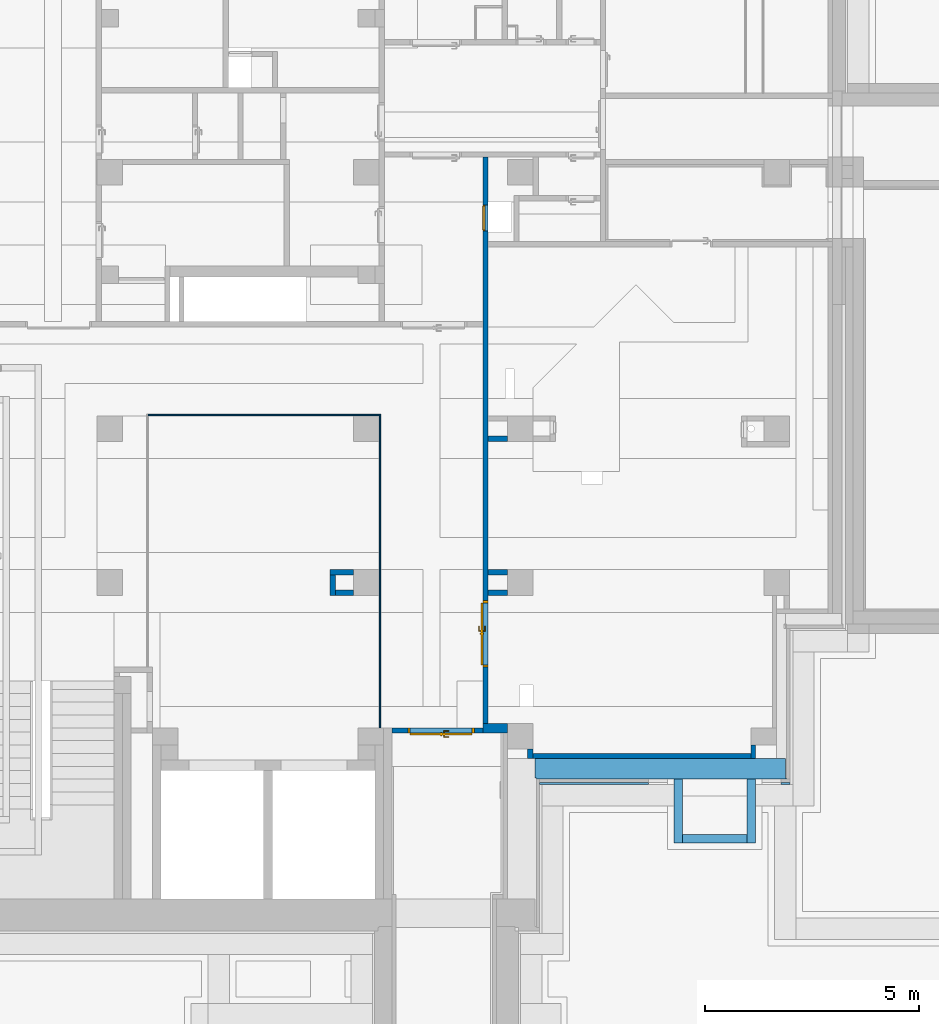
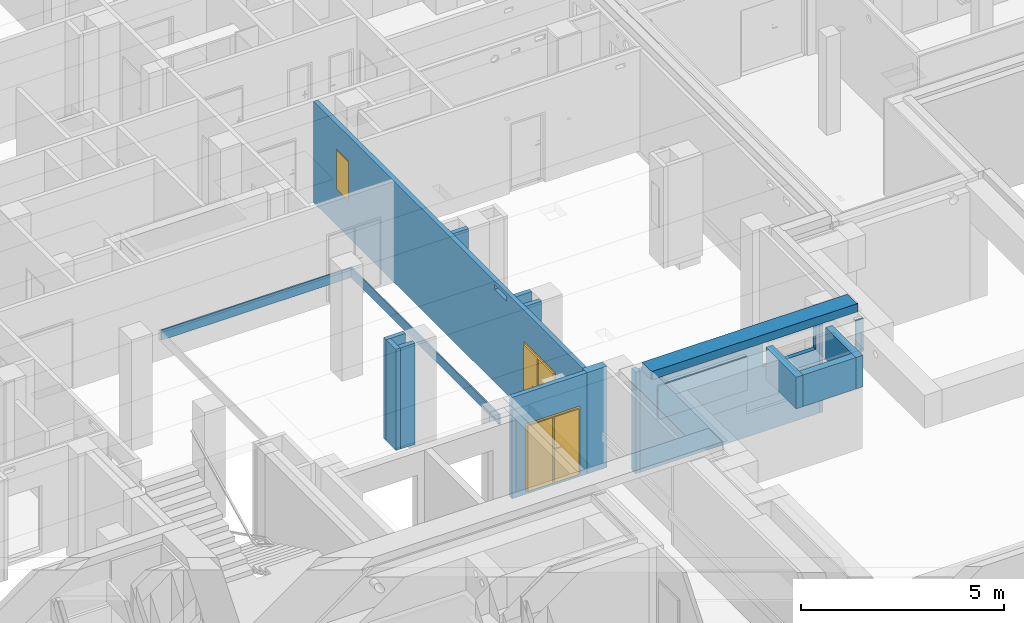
# One storey, part 19 of 84: 20 walls, 2 doors, 1 window, 5 openings.
"""IFC4 building model written with IfcOpenShell, lengths in metres."""

from ifc_helpers import new_model, entity, si_unit, converted_unit, derived_unit, frame, frame_2d, origin, origin_with_axes, place, context, subcontext, project, spatial, polyline, rectangle, outline, extrude, closed_shell, open_shell, faceted_brep, surface_model, source, transform, mapped, material, layer, layer_set, layer_usage, type_object, element, fill, save


model = new_model("IFC4")

# Units and contexts
model_context = context("Model", 3, precision=1e-05, world=origin())
body_context = subcontext(model_context, "Body", "Model", "MODEL_VIEW")
ifc_project = project(units=[si_unit("LENGTHUNIT", "METRE"), si_unit("AREAUNIT", "SQUARE_METRE"), si_unit("VOLUMEUNIT", "CUBIC_METRE"), si_unit("MASSUNIT", "GRAM", prefix="KILO"), converted_unit("PLANEANGLEUNIT", "DEGREE", entity("IfcPlaneAngleMeasure", 0.0174532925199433), si_unit("PLANEANGLEUNIT", "RADIAN"), dimensions=[0, 0, 0, 0, 0, 0, 0]), derived_unit("THERMALTRANSMITTANCEUNIT", [(si_unit("POWERUNIT", "WATT"), 1), (si_unit("THERMODYNAMICTEMPERATUREUNIT", "KELVIN"), -1), (si_unit("LENGTHUNIT", "METRE"), -2)]), derived_unit("VOLUMETRICFLOWRATEUNIT", [(si_unit("LENGTHUNIT", "METRE"), 3), (converted_unit("TIMEUNIT", "hour", entity("IfcTimeMeasure", 3600.0), si_unit("TIMEUNIT", "SECOND"), dimensions=[0, 0, 1, 0, 0, 0, 0]), -1), (si_unit("LENGTHUNIT", "METRE"), -1)])], contexts=[model_context])

# Site, building, storey
site_placement = place(None, origin())
site = spatial("IfcSite", under=ifc_project, at=site_placement, Name="3. ASŘ", CompositionType="ELEMENT")
building_placement = place(site_placement, origin())
building = spatial("IfcBuilding", under=site, at=building_placement, Name="Pavilon C", CompositionType="ELEMENT")
storey_placement = place(building_placement, frame((0.0, 0.0, -3.3)))
storey = spatial("IfcBuildingStorey", under=building, at=storey_placement, Name="Půdorys 1.PP", CompositionType="ELEMENT", Elevation=-3.3)

# Walls
ifc_material_1 = material(Name="ZDIVO Z CDm")
ifc_layer_1 = layer(ifc_material_1, 0.125)
ifc_layer_set_1 = layer_set([ifc_layer_1])
ifc_layer_usage_1 = layer_usage(ifc_layer_set_1, "AXIS2", "POSITIVE", 0.0)
wall_1_placement = place(storey_placement, frame((43.65, 7.02499999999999, -0.1), z_axis=(0.0, 0.0, 1.0), x_axis=(-1.0, 0.0, 0.0)))
element("IfcWall", 1, at=wall_1_placement, inside=storey, material=ifc_layer_usage_1, Name="ZDIVO Z CDm", context=body_context, shape_type="SweptSolid", body=[
    extrude(rectangle(XDim=0.45, YDim=0.125, at=frame_2d((0.225, 0.0625), x_axis=(1.0, 0.0))), origin_with_axes(), (0.0, 0.0, 1.0), 3.05),
])
ifc_material_2 = material(Name="ZDIVO Z CDm")
ifc_layer_2 = layer(ifc_material_2, 0.125)
ifc_layer_set_2 = layer_set([ifc_layer_2])
ifc_layer_usage_2 = layer_usage(ifc_layer_set_2, "AXIS2", "POSITIVE", 0.0)
wall_2_placement = place(storey_placement, frame((43.65, 3.42499999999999, -0.1), z_axis=(0.0, 0.0, 1.0), x_axis=(-1.0, 0.0, 0.0)))
element("IfcWall", 2, at=wall_2_placement, inside=storey, material=ifc_layer_usage_2, Name="ZDIVO Z CDm", context=body_context, shape_type="SweptSolid", body=[
    extrude(rectangle(XDim=0.45, YDim=0.125, at=frame_2d((0.225, 0.0625), x_axis=(1.0, 0.0))), origin_with_axes(), (0.0, 0.0, 1.0), 3.05),
])
ifc_material_3 = material(Name="ZDIVO Z CDm")
ifc_layer_3 = layer(ifc_material_3, 0.125)
ifc_layer_set_3 = layer_set([ifc_layer_3])
ifc_layer_usage_3 = layer_usage(ifc_layer_set_3, "AXIS2", "POSITIVE", 0.0)
wall_3_placement = place(storey_placement, frame((43.65, 3.89999999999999, -0.1), z_axis=(0.0, 0.0, 1.0), x_axis=(-1.0, 0.0, 0.0)))
element("IfcWall", 3, at=wall_3_placement, inside=storey, material=ifc_layer_usage_3, Name="ZDIVO Z CDm", context=body_context, shape_type="SweptSolid", body=[
    extrude(rectangle(XDim=0.45, YDim=0.125, at=frame_2d((0.225, 0.0625), x_axis=(1.0, 0.0))), origin_with_axes(), (0.0, 0.0, 1.0), 3.05),
])
ifc_material_4 = material(Name="PÓROBETONOVÉ ZDIVO")
ifc_layer_4 = layer(ifc_material_4, 0.1)
ifc_layer_set_4 = layer_set([ifc_layer_4])
ifc_layer_usage_4 = layer_usage(ifc_layer_set_4, "AXIS2", "POSITIVE", 0.0)
wall_4_placement = place(storey_placement, frame((49.35, -0.20000000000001, -0.1), z_axis=(0.0, 0.0, 1.0), x_axis=(0.0, -1.0, 0.0)))
element("IfcWall", 4, at=wall_4_placement, inside=storey, material=ifc_layer_usage_4, Name="PÓROBETONOVÉ ZDIVO", context=body_context, shape_type="SweptSolid", body=[
    extrude(rectangle(XDim=0.319999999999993, YDim=0.1, at=frame_2d((0.159999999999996, 0.05), x_axis=(1.0, 0.0))), origin_with_axes(), (0.0, 0.0, 1.0), 3.05),
])
ifc_material_5 = material(Name="ZDIVO Z CDm")
ifc_layer_5 = layer(ifc_material_5, 0.125)
ifc_layer_set_5 = layer_set([ifc_layer_5])
ifc_layer_usage_5 = layer_usage(ifc_layer_set_5, "AXIS2", "POSITIVE", 0.0)
wall_5_placement = place(storey_placement, frame((44.125, -0.30000000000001, -0.1), z_axis=(0.0, 0.0, 1.0), x_axis=(0.0, -1.0, 0.0)))
element("IfcWall", 5, at=wall_5_placement, inside=storey, material=ifc_layer_usage_5, Name="ZDIVO Z CDm", context=body_context, shape_type="SweptSolid", body=[
    extrude(rectangle(XDim=0.219999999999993, YDim=0.125, at=frame_2d((0.109999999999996, 0.0625), x_axis=(1.0, 0.0))), origin_with_axes(), (0.0, 0.0, 1.0), 3.05),
])

# Wall, opening
ifc_material_6 = material(Name="ZDIVO Z CDm")
ifc_layer_6 = layer(ifc_material_6, 0.125)
ifc_layer_set_6 = layer_set([ifc_layer_6])
ifc_layer_usage_6 = layer_usage(ifc_layer_set_6, "AXIS2", "POSITIVE", 0.0)
wall_6_placement = place(storey_placement, frame((44.25, -0.520000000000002, -0.1), z_axis=(0.0, 0.0, 1.0), x_axis=(1.0, -1.114576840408e-16, 0.0)))
wall_6 = element("IfcWall", 6, at=wall_6_placement, inside=storey, material=ifc_layer_usage_6, Name="ZDIVO Z CDm", context=body_context, shape_type="SweptSolid", body=[
    extrude(rectangle(XDim=5.1, YDim=0.125, at=frame_2d((2.55, 0.0625), x_axis=(1.0, 0.0))), origin_with_axes(), (0.0, 0.0, 1.0), 3.05),
])
opening_1_placement = place(wall_6_placement, frame((5.0, 0.125, 1.95), z_axis=(0.0, -1.0, 0.0), x_axis=(0.0, 0.0, 1.0)))
element("IfcOpeningElement", 7, at=opening_1_placement, cuts=wall_6, Name="Okenní otvor", ObjectType="Opening", context=body_context, shape_type="SweptSolid", body=[
    extrude(outline(polyline([(0.0, 1.5), (0.8, 1.5), (0.8, 0.0), (0.0, 0.0), (0.0, 1.5)])), origin_with_axes(), (0.0, 0.0, 1.0), 0.125),
])

# Wall, openings, window, door
ifc_material_7 = material(Name="ZDIVO Z CDm")
ifc_layer_7 = layer(ifc_material_7, 0.125)
ifc_layer_set_7 = layer_set([ifc_layer_7])
ifc_layer_usage_7 = layer_usage(ifc_layer_set_7, "AXIS2", "POSITIVE", 0.0)
wall_7_placement = place(storey_placement, frame((43.2, 0.29999999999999, -0.1), z_axis=(0.0, 0.0, 1.0), x_axis=(0.0, 1.0, 0.0)))
wall_7 = element("IfcWall", 8, at=wall_7_placement, inside=storey, material=ifc_layer_usage_7, Name="ZDIVO Z CDm", context=body_context, shape_type="SweptSolid", body=[
    extrude(rectangle(XDim=13.25, YDim=0.125, at=frame_2d((6.625, 0.0625), x_axis=(1.0, 0.0))), origin_with_axes(), (0.0, 0.0, 1.0), 3.05),
])
opening_2_placement = place(wall_7_placement, frame((4.32513861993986, 0.125, 2.8), z_axis=(0.0, -1.0, 0.0), x_axis=(0.0, 0.0, 1.0)))
element("IfcOpeningElement", 9, at=opening_2_placement, cuts=wall_7, Name="UT", ObjectType="Opening", context=body_context, shape_type="SweptSolid", body=[
    extrude(outline(polyline([(0.0, 0.6), (0.15, 0.6), (0.15, 0.0), (0.0, 0.0), (0.0, 0.6)])), origin_with_axes(), (0.0, 0.0, 1.0), 0.125),
])
opening_3_placement = place(wall_7_placement, frame((12.125, 0.125, 1.1), z_axis=(0.0, -1.0, 0.0), x_axis=(0.0, 0.0, 1.0)))
opening_3 = element("IfcOpeningElement", 10, at=opening_3_placement, cuts=wall_7, Name="Okenní otvor", ObjectType="Opening", context=body_context, shape_type="SweptSolid", body=[
    extrude(outline(polyline([(0.0, 0.6), (1.2, 0.6), (1.2, 0.0), (0.0, 0.0), (0.0, 0.6)])), origin_with_axes(), (0.0, 0.0, 1.0), 0.125),
])
opening_4_placement = place(wall_7_placement, frame((2.875, 0.125, 0.1), z_axis=(0.0, -1.0, 0.0), x_axis=(0.0, 0.0, 1.0)))
opening_4 = element("IfcOpeningElement", 11, at=opening_4_placement, cuts=wall_7, Name="Dveřní otvor", ObjectType="Opening", context=body_context, shape_type="SweptSolid", body=[
    extrude(outline(polyline([(0.0, 1.55), (2.02, 1.55), (2.02, 0.0), (0.0, 0.0), (0.0, 1.55)])), origin_with_axes(), (0.0, 0.0, 1.0), 0.125),
])
shared_shape_1 = source(origin_with_axes(), body_context, "Body", "Brep", [
    faceted_brep([(0.0, 0.0600000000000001, 1.2), (0.0, 0.06, 4.91096680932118e-19), (0.02, 0.06, 4.91096680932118e-19), (0.02, 0.0600000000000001, 1.2), (0.0, 0.01, 6.61433067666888e-18), (0.0, 0.0100000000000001, 1.2), (0.02, 0.0100000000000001, 1.2), (0.02, 0.01, 6.61433067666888e-18)], [[[0, 1, 2, 3]], [[4, 5, 6, 7]], [[1, 0, 5, 4]], [[2, 1, 4, 7]], [[3, 2, 7, 6]], [[0, 3, 6, 5]]], orient=[[False], [False], [False], [False], [False], [False]]),
    faceted_brep([(0.58, 0.0600000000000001, 1.2), (0.58, 0.06, 4.91096680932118e-19), (0.6, 0.06, 4.91096680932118e-19), (0.6, 0.0600000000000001, 1.2), (0.58, 0.01, 6.61433067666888e-18), (0.58, 0.0100000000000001, 1.2), (0.6, 0.0100000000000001, 1.2), (0.6, 0.01, 6.61433067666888e-18)], [[[0, 1, 2, 3]], [[4, 5, 6, 7]], [[1, 0, 5, 4]], [[2, 1, 4, 7]], [[3, 2, 7, 6]], [[0, 3, 6, 5]]], orient=[[False], [False], [False], [False], [False], [False]]),
    faceted_brep([(0.02, 0.06, 0.02), (0.02, 0.06, 4.91096680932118e-19), (0.58, 0.06, 4.91096680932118e-19), (0.58, 0.06, 0.02), (0.02, 0.01, 6.61433067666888e-18), (0.02, 0.01, 0.02), (0.58, 0.01, 0.02), (0.58, 0.01, 6.61433067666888e-18)], [[[0, 1, 2, 3]], [[4, 5, 6, 7]], [[1, 0, 5, 4]], [[2, 1, 4, 7]], [[3, 2, 7, 6]], [[0, 3, 6, 5]]], orient=[[False], [False], [False], [False], [False], [False]]),
    faceted_brep([(0.02, 0.0600000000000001, 1.2), (0.02, 0.0600000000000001, 1.18), (0.58, 0.0600000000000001, 1.18), (0.58, 0.0600000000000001, 1.2), (0.02, 0.0100000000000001, 1.18), (0.02, 0.0100000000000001, 1.2), (0.58, 0.0100000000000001, 1.2), (0.58, 0.0100000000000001, 1.18)], [[[0, 1, 2, 3]], [[4, 5, 6, 7]], [[1, 0, 5, 4]], [[2, 1, 4, 7]], [[3, 2, 7, 6]], [[0, 3, 6, 5]]], orient=[[False], [False], [False], [False], [False], [False]]),
    faceted_brep([(0.02, 0.0100000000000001, 1.18), (0.02, 0.01, 0.02), (0.58, 0.01, 0.02), (0.58, 0.0100000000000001, 1.18), (0.02, 0.0, 0.02), (0.02, 1.4210854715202e-16, 1.18), (0.58, 1.4210854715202e-16, 1.18), (0.58, 0.0, 0.02)], [[[0, 1, 2, 3]], [[4, 5, 6, 7]], [[1, 0, 5, 4]], [[2, 1, 4, 7]], [[3, 2, 7, 6]], [[0, 3, 6, 5]]], orient=[[False], [False], [False], [False], [False], [False]]),
])
window_placement = place(opening_3_placement, frame((0.0, 3.63797880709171e-15, -0.0100000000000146), z_axis=(1.0, 0.0, 0.0), x_axis=(0.0, 1.0, 1.22464679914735e-16)))
window = element("IfcWindow", 12, at=window_placement, inside=storey, Name="O01", OverallHeight=1.2, OverallWidth=0.6, PartitioningType="USERDEFINED", PredefinedType="WINDOW", context=body_context, shape_type="MappedRepresentation", body=[
    mapped(shared_shape_1, transform((0.0, 0.0, 0.0), x_axis=(1.0, 0.0, 0.0), y_axis=(0.0, 1.0, 0.0), z_axis=(0.0, 0.0, 1.0), scale=1.0)),
])
fill(opening_3, window)
door_type_1 = type_object("IfcDoorType", Name="D401", OperationType="NOTDEFINED", ParameterTakesPrecedence=False, PredefinedType="DOOR")
shared_shape_2 = source(origin_with_axes(), body_context, "Body", "SurfaceModel", [
    surface_model("IfcShellBasedSurfaceModel", [(0.0, 0.125, 2.02), (0.0, 0.125, -7.65404249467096e-18), (0.05, 0.125, -7.65404249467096e-18), (0.05, 0.125, 2.02), (0.0, 0.0, 7.65404249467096e-18), (0.0, 2.41584530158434e-16, 2.02), (0.05, 2.41584530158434e-16, 2.02), (0.05, 0.0, 7.65404249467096e-18)], [closed_shell([[[0, 1, 2, 3]], [[4, 5, 6, 7]], [[1, 0, 5, 4]], [[2, 1, 4, 7]], [[3, 2, 7, 6]], [[0, 3, 6, 5]]], orient=[[False], [False], [False], [False], [False], [False]])]),
    surface_model("IfcShellBasedSurfaceModel", [(1.5, 0.125, 2.02), (1.5, 0.125, -7.65404249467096e-18), (1.55, 0.125, -7.65404249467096e-18), (1.55, 0.125, 2.02), (1.5, 0.0, 7.65404249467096e-18), (1.5, 2.41584530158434e-16, 2.02), (1.55, 2.41584530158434e-16, 2.02), (1.55, 0.0, 7.65404249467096e-18)], [closed_shell([[[0, 1, 2, 3]], [[4, 5, 6, 7]], [[1, 0, 5, 4]], [[2, 1, 4, 7]], [[3, 2, 7, 6]], [[0, 3, 6, 5]]], orient=[[False], [False], [False], [False], [False], [False]])]),
    surface_model("IfcShellBasedSurfaceModel", [(0.05, 0.125, 2.02), (0.05, 0.125, 1.97), (1.5, 0.125, 1.97), (1.5, 0.125, 2.02), (0.05, 2.41584530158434e-16, 1.97), (0.05, 2.41584530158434e-16, 2.02), (1.5, 2.41584530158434e-16, 2.02), (1.5, 2.41584530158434e-16, 1.97)], [closed_shell([[[0, 1, 2, 3]], [[4, 5, 6, 7]], [[1, 0, 5, 4]], [[2, 1, 4, 7]], [[3, 2, 7, 6]], [[0, 3, 6, 5]]], orient=[[False], [False], [False], [False], [False], [False]])]),
    surface_model("IfcShellBasedSurfaceModel", [(0.05, 0.165, 1.97), (0.05, 0.165, -1.25526296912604e-17), (0.7745, 0.165, -1.25526296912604e-17), (0.7745, 0.165, 1.97), (0.05, 0.125, -7.65404249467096e-18), (0.05, 0.125, 1.97), (0.7745, 0.125, 1.97), (0.7745, 0.125, -7.65404249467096e-18)], [closed_shell([[[0, 1, 2, 3]], [[4, 5, 6, 7]], [[1, 0, 5, 4]], [[2, 1, 4, 7]], [[3, 2, 7, 6]], [[0, 3, 6, 5]]], orient=[[False], [False], [False], [False], [False], [False]])]),
    surface_model("IfcShellBasedSurfaceModel", [(0.7545, 0.165, 1.97), (0.7945, 0.165, 1.97), (0.7945, 0.165, -1.25526296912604e-17), (0.7545, 0.165, -1.25526296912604e-17), (0.7545, 0.185, -1.50019232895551e-17), (0.7945, 0.185, -1.50019232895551e-17), (0.7945, 0.185, 1.97), (0.7545, 0.185, 1.97)], [closed_shell([[[0, 1, 2, 3]], [[4, 5, 6, 7]], [[3, 4, 7, 0]], [[2, 5, 4, 3]], [[1, 6, 5, 2]], [[0, 7, 6, 1]]], orient=[[False], [False], [False], [False], [False], [False]])]),
    surface_model("IfcShellBasedSurfaceModel", [(0.6845, 0.125, 1.125), (0.6845, 0.125, 0.91), (0.7345, 0.125, 0.91), (0.7345, 0.125, 1.125), (0.6845, 0.115, 0.91), (0.6845, 0.115, 1.125), (0.7345, 0.115, 1.125), (0.7345, 0.115, 0.91)], [closed_shell([[[0, 1, 2, 3]], [[4, 5, 6, 7]], [[1, 0, 5, 4]], [[2, 1, 4, 7]], [[3, 2, 7, 6]], [[0, 3, 6, 5]]], orient=[[False], [False], [False], [False], [False], [False]])]),
    surface_model("IfcShellBasedSurfaceModel", [(0.7095, 0.115, 1.06), (0.7045, 0.115, 1.05866025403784), (0.700839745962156, 0.115, 1.055), (0.6995, 0.115, 1.05), (0.700839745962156, 0.115, 1.045), (0.7045, 0.115, 1.04133974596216), (0.7095, 0.115, 1.04), (0.7145, 0.115, 1.04133974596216), (0.718160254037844, 0.115, 1.045), (0.7195, 0.115, 1.05), (0.718160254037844, 0.115, 1.055), (0.7145, 0.115, 1.05866025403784), (0.7145, 0.0700000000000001, 1.05866025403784), (0.7095, 0.0750000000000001, 1.06), (0.718160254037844, 0.0663397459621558, 1.055), (0.7195, 0.0650000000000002, 1.05), (0.718160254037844, 0.0663397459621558, 1.045), (0.7145, 0.0700000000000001, 1.04133974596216), (0.7095, 0.0750000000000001, 1.04), (0.7045, 0.0800000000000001, 1.04133974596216), (0.700839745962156, 0.0836602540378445, 1.045), (0.6995, 0.0850000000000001, 1.05), (0.700839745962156, 0.0836602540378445, 1.055), (0.7045, 0.0800000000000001, 1.05866025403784), (0.5945, 0.0700000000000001, 1.05866025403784), (0.5945, 0.0750000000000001, 1.06), (0.5945, 0.0663397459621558, 1.055), (0.5945, 0.0650000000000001, 1.05), (0.5945, 0.0663397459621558, 1.045), (0.5945, 0.0700000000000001, 1.04133974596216), (0.5945, 0.0750000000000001, 1.04), (0.5945, 0.0800000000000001, 1.04133974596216), (0.5945, 0.0836602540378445, 1.045), (0.5945, 0.0850000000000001, 1.05), (0.5945, 0.0836602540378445, 1.055), (0.5945, 0.0800000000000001, 1.05866025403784)], [open_shell([[[0, 1, 2, 3, 4, 5, 6, 7, 8, 9, 10, 11]], [[0, 11, 12, 13]], [[11, 10, 14, 12]], [[10, 9, 15, 14]], [[9, 8, 16, 15]], [[8, 7, 17, 16]], [[7, 6, 18, 17]], [[6, 5, 19, 18]], [[5, 4, 20, 19]], [[4, 3, 21, 20]], [[3, 2, 22, 21]], [[2, 1, 23, 22]], [[1, 0, 13, 23]], [[13, 12, 24, 25]], [[12, 14, 26, 24]], [[14, 15, 27, 26]], [[15, 16, 28, 27]], [[16, 17, 29, 28]], [[17, 18, 30, 29]], [[18, 19, 31, 30]], [[19, 20, 32, 31]], [[20, 21, 33, 32]], [[21, 22, 34, 33]], [[22, 23, 35, 34]], [[23, 13, 25, 35]]], orient=[[False], [False], [False], [False], [False], [False], [False], [False], [False], [False], [False], [False], [False], [False], [False], [False], [False], [False], [False], [False], [False], [False], [False], [False], [False]])]),
    surface_model("IfcShellBasedSurfaceModel", [(0.6845, 0.165, 1.125), (0.7345, 0.165, 1.125), (0.7345, 0.165, 0.91), (0.6845, 0.165, 0.91), (0.6845, 0.175, 0.91), (0.7345, 0.175, 0.91), (0.7345, 0.175, 1.125), (0.6845, 0.175, 1.125)], [closed_shell([[[0, 1, 2, 3]], [[4, 5, 6, 7]], [[3, 4, 7, 0]], [[2, 5, 4, 3]], [[1, 6, 5, 2]], [[0, 7, 6, 1]]], orient=[[False], [False], [False], [False], [False], [False]])]),
    surface_model("IfcShellBasedSurfaceModel", [(0.7095, 0.175, 1.06), (0.7145, 0.175, 1.05866025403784), (0.718160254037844, 0.175, 1.055), (0.7195, 0.175, 1.05), (0.718160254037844, 0.175, 1.045), (0.7145, 0.175, 1.04133974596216), (0.7095, 0.175, 1.04), (0.7045, 0.175, 1.04133974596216), (0.700839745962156, 0.175, 1.045), (0.6995, 0.175, 1.05), (0.700839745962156, 0.175, 1.055), (0.7045, 0.175, 1.05866025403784), (0.7095, 0.215, 1.06), (0.7145, 0.22, 1.05866025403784), (0.718160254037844, 0.223660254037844, 1.055), (0.7195, 0.225, 1.05), (0.718160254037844, 0.223660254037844, 1.045), (0.7145, 0.22, 1.04133974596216), (0.7095, 0.215, 1.04), (0.7045, 0.21, 1.04133974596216), (0.700839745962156, 0.206339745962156, 1.045), (0.6995, 0.205, 1.05), (0.700839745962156, 0.206339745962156, 1.055), (0.7045, 0.21, 1.05866025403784), (0.5945, 0.215, 1.06), (0.5945, 0.22, 1.05866025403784), (0.5945, 0.223660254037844, 1.055), (0.5945, 0.225, 1.05), (0.5945, 0.223660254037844, 1.045), (0.5945, 0.22, 1.04133974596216), (0.5945, 0.215, 1.04), (0.5945, 0.21, 1.04133974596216), (0.5945, 0.206339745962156, 1.045), (0.5945, 0.205, 1.05), (0.5945, 0.206339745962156, 1.055), (0.5945, 0.21, 1.05866025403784)], [open_shell([[[0, 1, 2, 3, 4, 5, 6, 7, 8, 9, 10, 11]], [[0, 12, 13, 1]], [[1, 13, 14, 2]], [[2, 14, 15, 3]], [[3, 15, 16, 4]], [[4, 16, 17, 5]], [[5, 17, 18, 6]], [[6, 18, 19, 7]], [[7, 19, 20, 8]], [[8, 20, 21, 9]], [[9, 21, 22, 10]], [[10, 22, 23, 11]], [[11, 23, 12, 0]], [[12, 24, 25, 13]], [[13, 25, 26, 14]], [[14, 26, 27, 15]], [[15, 27, 28, 16]], [[16, 28, 29, 17]], [[17, 29, 30, 18]], [[18, 30, 31, 19]], [[19, 31, 32, 20]], [[20, 32, 33, 21]], [[21, 33, 34, 22]], [[22, 34, 35, 23]], [[23, 35, 24, 12]]], orient=[[False], [False], [False], [False], [False], [False], [False], [False], [False], [False], [False], [False], [False], [False], [False], [False], [False], [False], [False], [False], [False], [False], [False], [False], [False]])]),
    surface_model("IfcShellBasedSurfaceModel", [(0.7755, 0.165, 1.97), (0.7755, 0.165, -1.25526296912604e-17), (1.5, 0.165, -1.25526296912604e-17), (1.5, 0.165, 1.97), (0.7755, 0.125, -7.65404249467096e-18), (0.7755, 0.125, 1.97), (1.5, 0.125, 1.97), (1.5, 0.125, -7.65404249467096e-18)], [closed_shell([[[0, 1, 2, 3]], [[4, 5, 6, 7]], [[1, 0, 5, 4]], [[2, 1, 4, 7]], [[3, 2, 7, 6]], [[0, 3, 6, 5]]], orient=[[False], [False], [False], [False], [False], [False]])]),
    surface_model("IfcShellBasedSurfaceModel", [(0.7555, 0.125, 1.97), (0.7555, 0.125, -7.65404249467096e-18), (0.7955, 0.125, -7.65404249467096e-18), (0.7955, 0.125, 1.97), (0.7555, 0.105, -5.20474889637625e-18), (0.7555, 0.105, 1.97), (0.7955, 0.105, 1.97), (0.7955, 0.105, -5.20474889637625e-18)], [closed_shell([[[0, 1, 2, 3]], [[4, 5, 6, 7]], [[1, 0, 5, 4]], [[2, 1, 4, 7]], [[3, 2, 7, 6]], [[0, 3, 6, 5]]], orient=[[False], [False], [False], [False], [False], [False]])]),
])
door_1_placement = place(opening_4_placement, frame((0.0, 9.09494701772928e-16, 0.124999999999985), z_axis=(1.0, 0.0, 0.0), x_axis=(0.0, 1.0, -1.22464679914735e-16)))
door_1 = element("IfcDoor", 13, at=door_1_placement, inside=storey, type_object=door_type_1, Name="D401", OverallHeight=2.02, OverallWidth=1.55, context=body_context, shape_type="MappedRepresentation", body=[
    mapped(shared_shape_2, transform((0.0, 0.0, 0.0), x_axis=(1.0, 0.0, 0.0), y_axis=(0.0, -1.0, 0.0), z_axis=(0.0, 0.0, 1.0), scale=1.0)),
])
fill(opening_4, door_1)

# Wall, opening, door
ifc_material_8 = material(Name="ZDIVO Z CDm")
ifc_layer_8 = layer(ifc_material_8, 0.125)
ifc_layer_set_8 = layer_set([ifc_layer_8])
ifc_layer_usage_8 = layer_usage(ifc_layer_set_8, "AXIS2", "POSITIVE", 0.0)
wall_8_placement = place(storey_placement, frame((43.075, 0.199999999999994, -0.1), z_axis=(0.0, 0.0, 1.0), x_axis=(-1.0, 0.0, 0.0)))
wall_8 = element("IfcWall", 14, at=wall_8_placement, inside=storey, material=ifc_layer_usage_8, Name="ZDIVO Z CDm", context=body_context, shape_type="SweptSolid", body=[
    extrude(rectangle(XDim=2.125, YDim=0.125, at=frame_2d((1.0625, 0.0625), x_axis=(1.0, 0.0))), origin_with_axes(), (0.0, 0.0, 1.0), 3.05),
])
opening_5_placement = place(wall_8_placement, frame((1.75, 0.125, 0.1), z_axis=(0.0, -1.0, 0.0), x_axis=(0.0, 0.0, 1.0)))
opening_5 = element("IfcOpeningElement", 15, at=opening_5_placement, cuts=wall_8, Name="Dveřní otvor", ObjectType="Opening", context=body_context, shape_type="SweptSolid", body=[
    extrude(outline(polyline([(0.0, 1.55), (2.02, 1.55), (2.02, 0.0), (0.0, 0.0), (0.0, 1.55)])), origin_with_axes(), (0.0, 0.0, 1.0), 0.125),
])
door_type_2 = type_object("IfcDoorType", Name="D401", OperationType="NOTDEFINED", ParameterTakesPrecedence=False, PredefinedType="DOOR")
door_2_placement = place(opening_5_placement, frame((0.0, 1.55, 0.125), z_axis=(1.0, 0.0, 0.0), x_axis=(0.0, -1.0, 1.22464679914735e-16)))
door_2 = element("IfcDoor", 16, at=door_2_placement, inside=storey, type_object=door_type_2, Name="D401", OverallHeight=2.02, OverallWidth=1.55, context=body_context, shape_type="MappedRepresentation", body=[
    mapped(shared_shape_2, transform((0.0, 0.0, 0.0), x_axis=(1.0, 0.0, 0.0), y_axis=(0.0, 1.0, 0.0), z_axis=(0.0, 0.0, 1.0), scale=1.0)),
])
fill(opening_5, door_2)

# Walls
ifc_material_9 = material(Name="ZDIVO Z CDm")
ifc_layer_9 = layer(ifc_material_9, 0.225)
ifc_layer_set_9 = layer_set([ifc_layer_9])
ifc_layer_usage_9 = layer_usage(ifc_layer_set_9, "AXIS2", "POSITIVE", 0.0)
wall_9_placement = place(storey_placement, frame((43.65, 0.29999999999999, -0.1), z_axis=(0.0, 0.0, 1.0), x_axis=(-1.0, 9.8858119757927e-17, 0.0)))
element("IfcWall", 17, at=wall_9_placement, inside=storey, material=ifc_layer_usage_9, Name="ZDIVO Z CDm", context=body_context, shape_type="SweptSolid", body=[
    extrude(rectangle(XDim=0.575, YDim=0.225, at=frame_2d((0.2875, 0.1125), x_axis=(1.0, 0.0))), origin_with_axes(), (0.0, 0.0, 1.0), 3.05),
])
ifc_material_10 = material(Name="SDK SVISLA CAST PODHLEDU")
ifc_layer_10 = layer(ifc_material_10, 0.04)
ifc_layer_set_10 = layer_set([ifc_layer_10])
ifc_layer_usage_10 = layer_usage(ifc_layer_set_10, "AXIS2", "POSITIVE", 0.0)
wall_10_placement = place(storey_placement, frame((40.69, 0.199999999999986, 2.16), z_axis=(0.0, 0.0, 1.0), x_axis=(0.0, 1.0, 0.0)))
element("IfcWall", 18, at=wall_10_placement, inside=storey, material=ifc_layer_usage_10, Name="SDK SVISLA CAST PODHLEDU", context=body_context, shape_type="SweptSolid", body=[
    extrude(rectangle(XDim=7.34000000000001, YDim=0.04, at=frame_2d((3.67, 0.02), x_axis=(1.0, 0.0))), origin_with_axes(), (0.0, 0.0, 1.0), 0.3),
])
ifc_material_11 = material(Name="SDK SVISLA CAST PODHLEDU")
ifc_layer_11 = layer(ifc_material_11, 0.04)
ifc_layer_set_11 = layer_set([ifc_layer_11])
ifc_layer_usage_11 = layer_usage(ifc_layer_set_11, "AXIS2", "POSITIVE", 0.0)
wall_11_placement = place(storey_placement, frame((40.65, 7.53999999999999, 2.16), z_axis=(0.0, 0.0, 1.0), x_axis=(-1.0, 1.68424944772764e-16, 0.0)))
element("IfcWall", 19, at=wall_11_placement, inside=storey, material=ifc_layer_usage_11, Name="SDK SVISLA CAST PODHLEDU", context=body_context, shape_type="SweptSolid", body=[
    extrude(rectangle(XDim=5.4, YDim=0.04, at=frame_2d((2.7, 0.02), x_axis=(1.0, 0.0))), origin_with_axes(), (0.0, 0.0, 1.0), 0.3),
])
ifc_material_12 = material(Name="ZDIVO Z CDm")
ifc_layer_12 = layer(ifc_material_12, 0.125)
ifc_layer_set_12 = layer_set([ifc_layer_12])
ifc_layer_usage_12 = layer_usage(ifc_layer_set_12, "AXIS2", "POSITIVE", 0.0)
wall_12_placement = place(storey_placement, frame((40.05, 3.89999999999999, -0.1), z_axis=(0.0, 0.0, 1.0), x_axis=(-1.0, 0.0, 0.0)))
element("IfcWall", 20, at=wall_12_placement, inside=storey, material=ifc_layer_usage_12, Name="ZDIVO Z CDm", context=body_context, shape_type="SweptSolid", body=[
    extrude(rectangle(XDim=0.55, YDim=0.125, at=frame_2d((0.275, 0.0625), x_axis=(1.0, 0.0))), origin_with_axes(), (0.0, 0.0, 1.0), 3.05),
])
ifc_material_13 = material(Name="ZDIVO Z CDm")
ifc_layer_13 = layer(ifc_material_13, 0.125)
ifc_layer_set_13 = layer_set([ifc_layer_13])
ifc_layer_usage_13 = layer_usage(ifc_layer_set_13, "AXIS2", "POSITIVE", 0.0)
wall_13_placement = place(storey_placement, frame((39.5, 3.77499999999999, -0.1), z_axis=(0.0, 0.0, 1.0), x_axis=(0.0, -1.0, 0.0)))
element("IfcWall", 21, at=wall_13_placement, inside=storey, material=ifc_layer_usage_13, Name="ZDIVO Z CDm", context=body_context, shape_type="SweptSolid", body=[
    extrude(rectangle(XDim=0.475, YDim=0.125, at=frame_2d((0.2375, 0.0625), x_axis=(1.0, 0.0))), origin_with_axes(), (0.0, 0.0, 1.0), 3.05),
])
ifc_material_14 = material(Name="ZDIVO Z CDm")
ifc_layer_14 = layer(ifc_material_14, 0.125)
ifc_layer_set_14 = layer_set([ifc_layer_14])
ifc_layer_usage_14 = layer_usage(ifc_layer_set_14, "AXIS2", "POSITIVE", 0.0)
wall_14_placement = place(storey_placement, frame((39.625, 3.29999999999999, -0.1)))
element("IfcWall", 22, at=wall_14_placement, inside=storey, material=ifc_layer_usage_14, Name="ZDIVO Z CDm", context=body_context, shape_type="SweptSolid", body=[
    extrude(rectangle(XDim=0.425, YDim=0.125, at=frame_2d((0.2125, 0.0625), x_axis=(1.0, 0.0))), origin_with_axes(), (0.0, 0.0, 1.0), 3.05),
])
ifc_material_15 = material(Name="ZELEZOBETONOVÁ KCE")
ifc_layer_15 = layer(ifc_material_15, 0.45)
ifc_material_16 = material(Name="LIGNOPOR")
ifc_layer_16 = layer(ifc_material_16, 0.025)
ifc_layer_set_15 = layer_set([ifc_layer_15, ifc_layer_16])
ifc_layer_usage_15 = layer_usage(ifc_layer_set_15, "AXIS2", "POSITIVE", 0.0)
wall_15_placement = place(storey_placement, frame((50.15, -0.520000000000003, 2.95), z_axis=(0.0, 0.0, 1.0), x_axis=(-1.0, 0.0, 0.0)))
element("IfcWall", 23, at=wall_15_placement, inside=storey, material=ifc_layer_usage_15, context=body_context, shape_type="SweptSolid", body=[
    extrude(outline(polyline([(-5.85, -0.475), (0.0, -0.475), (0.0, -0.025), (-0.025, -0.025), (-0.025, 0.0), (-5.875, 0.0), (-5.875, -0.025), (-5.85, -0.025), (-5.85, -0.475)])), frame((5.85, 0.475, 0.0), z_axis=(0.0, 0.0, 1.0), x_axis=(1.0, 0.0, 0.0)), (0.0, 0.0, 1.0), 0.25),
])
ifc_material_17 = material(Name="PERIMETR")
ifc_layer_17 = layer(ifc_material_17, 0.05)
ifc_layer_set_16 = layer_set([ifc_layer_17])
ifc_layer_usage_16 = layer_usage(ifc_layer_set_16, "AXIS2", "POSITIVE", 0.0)
wall_16_placement = place(storey_placement, frame((44.405, -1.12499999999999, 1.8), z_axis=(0.0, 0.0, 1.0), x_axis=(1.0, -8.9341326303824e-17, 0.0)))
element("IfcWall", 24, at=wall_16_placement, inside=storey, material=ifc_layer_usage_16, Name="PERIMETR", context=body_context, shape_type="SweptSolid", body=[
    extrude(rectangle(XDim=2.545, YDim=0.05, at=frame_2d((1.2725, 0.025), x_axis=(1.0, 0.0))), origin_with_axes(), (0.0, 0.0, 1.0), 1.0),
])
ifc_material_18 = material(Name="PERIMETR")
ifc_layer_18 = layer(ifc_material_18, 0.05)
ifc_layer_set_17 = layer_set([ifc_layer_18])
ifc_layer_usage_17 = layer_usage(ifc_layer_set_17, "AXIS2", "POSITIVE", 0.0)
wall_17_placement = place(storey_placement, frame((50.05, -1.12499999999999, 1.8)))
element("IfcWall", 25, at=wall_17_placement, inside=storey, material=ifc_layer_usage_17, Name="PERIMETR", context=body_context, shape_type="SweptSolid", body=[
    extrude(rectangle(XDim=0.205, YDim=0.05, at=frame_2d((0.1025, 0.025), x_axis=(1.0, 0.0))), origin_with_axes(), (0.0, 0.0, 1.0), 1.0),
])
ifc_material_19 = material(Name="ZELEZOBETONOVÁ KCE")
ifc_layer_19 = layer(ifc_material_19, 0.2)
ifc_layer_set_18 = layer_set([ifc_layer_19])
ifc_layer_usage_18 = layer_usage(ifc_layer_set_18, "AXIS2", "POSITIVE", 0.0)
wall_18_placement = place(storey_placement, frame((49.25, -0.995000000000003, 1.85), z_axis=(0.0, 0.0, 1.0), x_axis=(0.0, -1.0, 0.0)))
element("IfcWall", 26, at=wall_18_placement, inside=storey, material=ifc_layer_usage_18, Name="ZELEZOBETONOVÁ KCE", context=body_context, shape_type="SweptSolid", body=[
    extrude(rectangle(XDim=1.495, YDim=0.2, at=frame_2d((0.7475, 0.1), x_axis=(1.0, 0.0))), origin_with_axes(), (0.0, 0.0, 1.0), 0.95),
])
ifc_material_20 = material(Name="ZELEZOBETONOVÁ KCE")
ifc_layer_20 = layer(ifc_material_20, 0.2)
ifc_layer_set_19 = layer_set([ifc_layer_20])
ifc_layer_usage_19 = layer_usage(ifc_layer_set_19, "AXIS2", "POSITIVE", 0.0)
wall_19_placement = place(storey_placement, frame((47.75, -2.49, 1.85), z_axis=(0.0, 0.0, 1.0), x_axis=(0.0, 1.0, 0.0)))
element("IfcWall", 27, at=wall_19_placement, inside=storey, material=ifc_layer_usage_19, Name="ZELEZOBETONOVÁ KCE", context=body_context, shape_type="SweptSolid", body=[
    extrude(rectangle(XDim=1.495, YDim=0.2, at=frame_2d((0.747499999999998, 0.1), x_axis=(1.0, 0.0))), origin_with_axes(), (0.0, 0.0, 1.0), 0.95),
])
ifc_material_21 = material(Name="ZELEZOBETONOVÁ KCE")
ifc_layer_21 = layer(ifc_material_21, 0.2)
ifc_layer_set_20 = layer_set([ifc_layer_21])
ifc_layer_usage_20 = layer_usage(ifc_layer_set_20, "AXIS2", "POSITIVE", 0.0)
wall_20_placement = place(storey_placement, frame((47.75, -2.49, 1.85)))
element("IfcWall", 28, at=wall_20_placement, inside=storey, material=ifc_layer_usage_20, Name="ZELEZOBETONOVÁ KCE", context=body_context, shape_type="SweptSolid", body=[
    extrude(rectangle(XDim=1.5, YDim=0.2, at=frame_2d((0.75, 0.1), x_axis=(1.0, 0.0))), origin_with_axes(), (0.0, 0.0, 1.0), 0.95),
])

save(model, "model.ifc")
